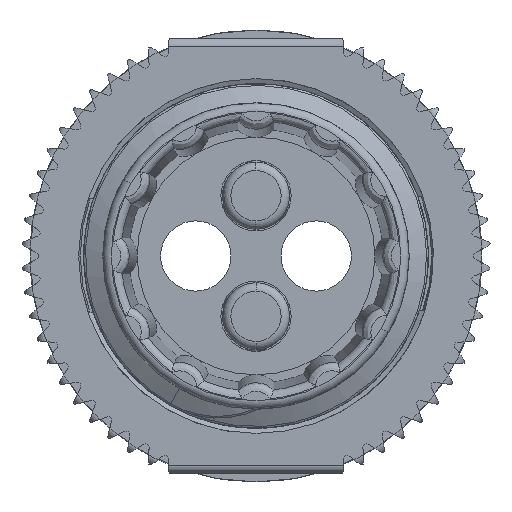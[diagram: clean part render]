
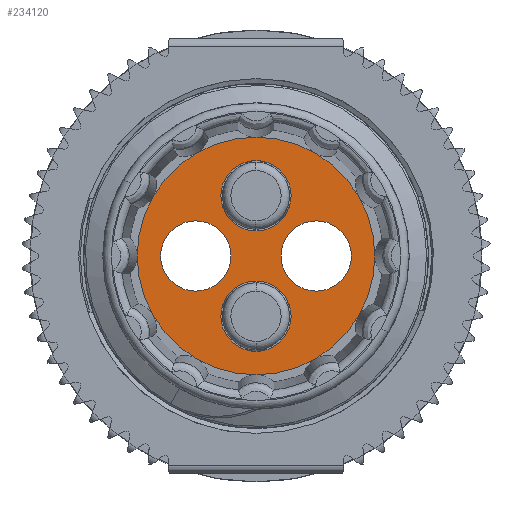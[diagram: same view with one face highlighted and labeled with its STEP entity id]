
A CAD part, left-side view. The second image highlights one B-rep face of the part: STEP entity #234120.
In plain terms, the highlighted planar face has unit normal (-1, 0, 0) as drawn and (0, 0, -1) by its records, which use the part's own axes.
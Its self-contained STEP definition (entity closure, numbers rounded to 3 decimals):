
#233320=CARTESIAN_POINT('',(0.,0.,0.));
#233330=DIRECTION('',(0.,0.,1.));
#233340=DIRECTION('',(1.,0.,0.));
#233350=AXIS2_PLACEMENT_3D('',#233320,#233330,#233340);
#233360=PLANE('',#233350);
#233370=CARTESIAN_POINT('',(47.47,45.26,0.));
#233380=DIRECTION('',(0.,0.,1.));
#233390=DIRECTION('',(1.,0.,0.));
#233400=AXIS2_PLACEMENT_3D('',#233370,#233380,#233390);
#233410=CIRCLE('',#233400,2.1);
#233420=CARTESIAN_POINT('',(49.57,45.26,0.));
#233430=VERTEX_POINT('',#233420);
#233440=CARTESIAN_POINT('',(45.37,45.26,0.));
#233450=VERTEX_POINT('',#233440);
#233460=EDGE_CURVE('',#233430,#233450,#233410,.T.);
#233470=ORIENTED_EDGE('',*,*,#233460,.T.);
#233480=EDGE_CURVE('',#233450,#233430,#233410,.T.);
#233490=ORIENTED_EDGE('',*,*,#233480,.T.);
#233500=EDGE_LOOP('',(#233490,#233470));
#233510=FACE_BOUND('',#233500,.T.);
#233520=CARTESIAN_POINT('',(51.07,41.66,0.));
#233530=DIRECTION('',(0.,0.,1.));
#233540=DIRECTION('',(1.,0.,0.));
#233550=AXIS2_PLACEMENT_3D('',#233520,#233530,#233540);
#233560=CIRCLE('',#233550,2.1);
#233570=CARTESIAN_POINT('',(53.17,41.66,0.));
#233580=VERTEX_POINT('',#233570);
#233590=CARTESIAN_POINT('',(48.97,41.66,0.));
#233600=VERTEX_POINT('',#233590);
#233610=EDGE_CURVE('',#233580,#233600,#233560,.T.);
#233620=ORIENTED_EDGE('',*,*,#233610,.T.);
#233630=EDGE_CURVE('',#233600,#233580,#233560,.T.);
#233640=ORIENTED_EDGE('',*,*,#233630,.T.);
#233650=EDGE_LOOP('',(#233640,#233620));
#233660=FACE_BOUND('',#233650,.T.);
#233670=CARTESIAN_POINT('',(54.67,45.26,0.));
#233680=DIRECTION('',(0.,0.,1.));
#233690=DIRECTION('',(1.,0.,0.));
#233700=AXIS2_PLACEMENT_3D('',#233670,#233680,#233690);
#233710=CIRCLE('',#233700,2.1);
#233720=CARTESIAN_POINT('',(56.77,45.26,0.));
#233730=VERTEX_POINT('',#233720);
#233740=CARTESIAN_POINT('',(52.57,45.26,0.));
#233750=VERTEX_POINT('',#233740);
#233760=EDGE_CURVE('',#233730,#233750,#233710,.T.);
#233770=ORIENTED_EDGE('',*,*,#233760,.T.);
#233780=EDGE_CURVE('',#233750,#233730,#233710,.T.);
#233790=ORIENTED_EDGE('',*,*,#233780,.T.);
#233800=EDGE_LOOP('',(#233790,#233770));
#233810=FACE_BOUND('',#233800,.T.);
#233820=CARTESIAN_POINT('',(51.07,48.86,0.));
#233830=DIRECTION('',(0.,0.,1.));
#233840=DIRECTION('',(1.,0.,0.));
#233850=AXIS2_PLACEMENT_3D('',#233820,#233830,#233840);
#233860=CIRCLE('',#233850,2.1);
#233870=CARTESIAN_POINT('',(53.17,48.86,0.));
#233880=VERTEX_POINT('',#233870);
#233890=CARTESIAN_POINT('',(48.97,48.86,0.));
#233900=VERTEX_POINT('',#233890);
#233910=EDGE_CURVE('',#233880,#233900,#233860,.T.);
#233920=ORIENTED_EDGE('',*,*,#233910,.T.);
#233930=EDGE_CURVE('',#233900,#233880,#233860,.T.);
#233940=ORIENTED_EDGE('',*,*,#233930,.T.);
#233950=EDGE_LOOP('',(#233940,#233920));
#233960=FACE_BOUND('',#233950,.T.);
#233970=CARTESIAN_POINT('',(51.07,45.26,0.));
#233980=DIRECTION('',(0.,0.,1.));
#233990=DIRECTION('',(1.,0.,0.));
#234000=AXIS2_PLACEMENT_3D('',#233970,#233980,#233990);
#234010=CIRCLE('',#234000,8.);
#234020=CARTESIAN_POINT('',(59.07,45.26,0.));
#234030=VERTEX_POINT('',#234020);
#234040=CARTESIAN_POINT('',(43.07,45.26,0.));
#234050=VERTEX_POINT('',#234040);
#234060=EDGE_CURVE('',#234030,#234050,#234010,.T.);
#234070=ORIENTED_EDGE('',*,*,#234060,.F.);
#234080=EDGE_CURVE('',#234050,#234030,#234010,.T.);
#234090=ORIENTED_EDGE('',*,*,#234080,.F.);
#234100=EDGE_LOOP('',(#234090,#234070));
#234110=FACE_OUTER_BOUND('',#234100,.T.);
#234120=ADVANCED_FACE('',(#233510,#233660,#233810,#233960,#234110),
#233360,.F.);
